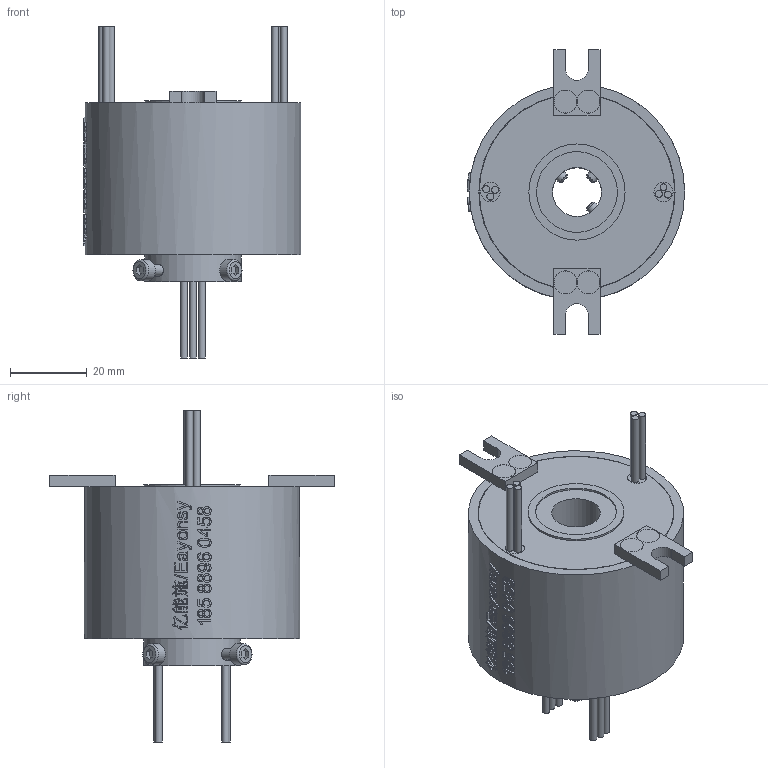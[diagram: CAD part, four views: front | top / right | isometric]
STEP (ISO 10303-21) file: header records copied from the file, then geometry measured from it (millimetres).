
FILE_DESCRIPTION(/* description */ (''),/* implementation_level */ '2;1');
FILE_NAME(/* name */ 'YD1256-0610-3D模型.stp',/* time_stamp */ '2025-08-27T17:21:56+08:00',/* author */ (''),/* organization */ (''),/* preprocessor_version */ 'ST-DEVELOPER v16.7',/* originating_system */ 'SIEMENS PLM Software NX 12.0',/* authorisation */ '');
FILE_SCHEMA (('AUTOMOTIVE_DESIGN { 1 0 10303 214 3 1 1 1 }'));
Length unit declared in the file: millimetre
Products named in the file (1): Admi27B8B179mpxr
Bounding box: 56.5 x 74 x 86.3 mm (x, y, z)
Volume: 96967 mm3; surface area: 18159 mm2
Topology: 1 solids, 1 shells, 908 faces, 2442 edges, 1620 vertices
Faces by surface type: extrusion 479, plane 316, cylinder 68, bspline 33, cone 8, torus 4
Full cylindrical faces by diameter (mm): 1.8 x12, 2.6 x1, 3 x7, 5 x2, 5.5 x4, 5.9 x4, 12.7 x1, 21 x1, 25 x2, 50.8 x2, 51 x2, 56 x1
Entity records: 36656 total; most frequent: CARTESIAN_POINT 17577, ORIENTED_EDGE 4756, EDGE_CURVE 2378, B_SPLINE_CURVE_WITH_KNOTS 2301, DIRECTION 2099, VERTEX_POINT 1607, EDGE_LOOP 1049, ADVANCED_FACE 908
